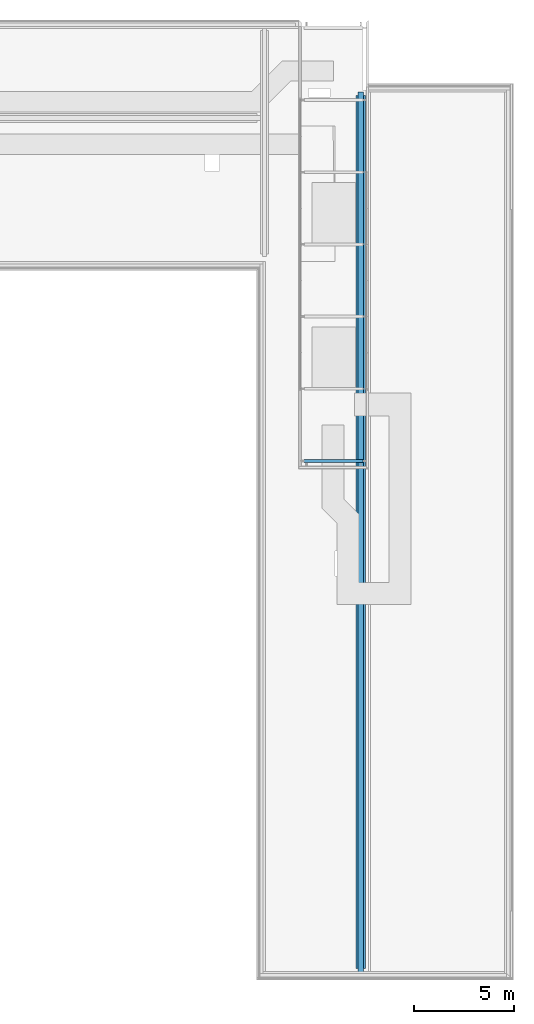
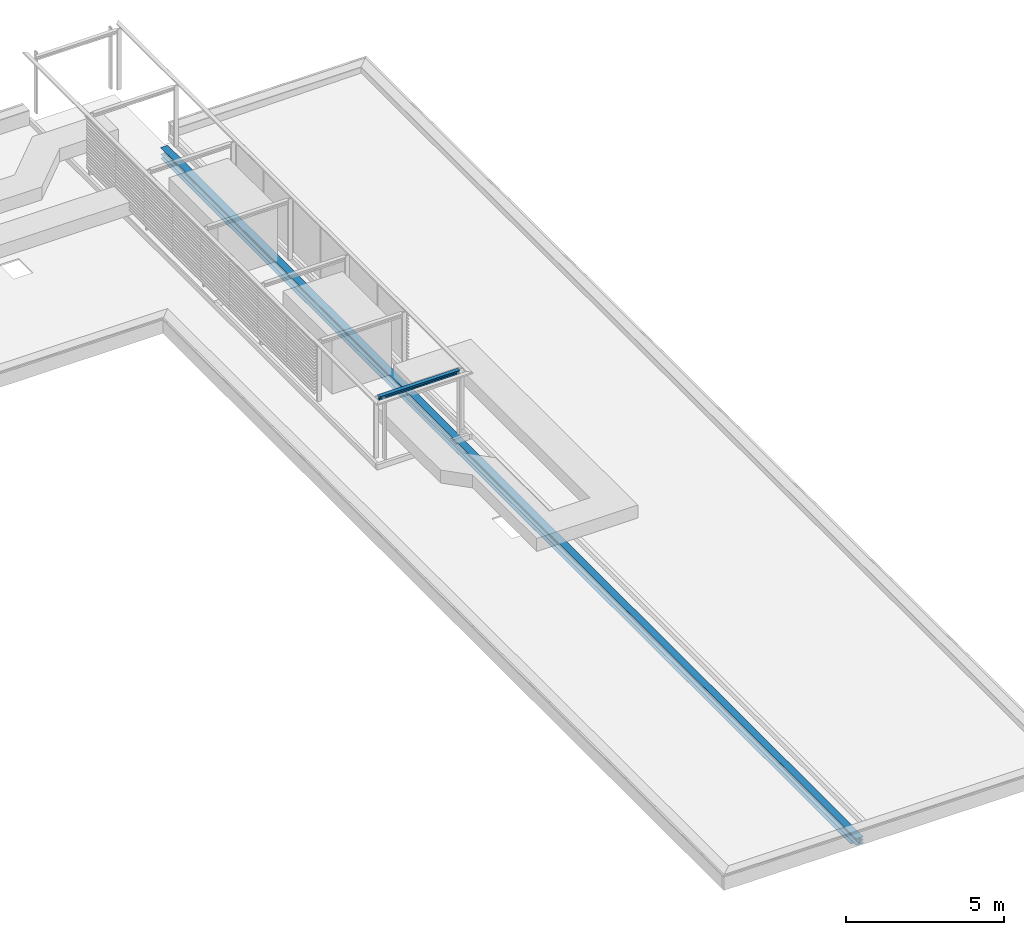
# One storey, part 4 of 32: 2 beams.
"""IFC2X3 building model written with IfcOpenShell, lengths in millimetres."""

from ifc_helpers import new_model, entity, si_unit, converted_unit, derived_unit, direction, frame, frame_2d, origin, origin_2d_with_axis, place, context, subcontext, project, spatial, polyline, circle_curve, parameter, trimmed, segment, composite_curve, rectangle, i_section, outline, extrude, source, transform, mapped, material, material_list, type_object, type_shapes, element, save


model = new_model("IFC2X3")

# Units and contexts
model_context = context("Model", 3, precision=0.01, world=origin(), true_north=direction((6.123031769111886e-17, 1.0)))
body_context = subcontext(model_context, "Body", "Model", "MODEL_VIEW")
ifc_project = project(units=[si_unit("LENGTHUNIT", "METRE", prefix="MILLI"), si_unit("AREAUNIT", "SQUARE_METRE"), si_unit("VOLUMEUNIT", "CUBIC_METRE"), converted_unit("PLANEANGLEUNIT", "DEGREE", entity("IfcRatioMeasure", 0.017453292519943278), si_unit("PLANEANGLEUNIT", "RADIAN"), dimensions=[0, 0, 0, 0, 0, 0, 0]), si_unit("MASSUNIT", "GRAM", prefix="KILO"), derived_unit("MASSDENSITYUNIT", [(si_unit("MASSUNIT", "GRAM", prefix="KILO"), 1), (si_unit("LENGTHUNIT", "METRE"), -3)]), derived_unit("IONCONCENTRATIONUNIT", [(si_unit("MASSUNIT", "GRAM", prefix="KILO"), 1), (si_unit("LENGTHUNIT", "METRE"), -3)]), derived_unit("MOMENTOFINERTIAUNIT", [(si_unit("LENGTHUNIT", "METRE"), 4)]), si_unit("TIMEUNIT", "SECOND"), si_unit("FREQUENCYUNIT", "HERTZ"), si_unit("THERMODYNAMICTEMPERATUREUNIT", "DEGREE_CELSIUS"), derived_unit("THERMALTRANSMITTANCEUNIT", [(si_unit("MASSUNIT", "GRAM", prefix="KILO"), 1), (si_unit("THERMODYNAMICTEMPERATUREUNIT", "KELVIN"), -1), (si_unit("TIMEUNIT", "SECOND"), -3)]), derived_unit("THERMALCONDUCTANCEUNIT", [(si_unit("MASSUNIT", "GRAM", prefix="KILO"), 1), (si_unit("THERMODYNAMICTEMPERATUREUNIT", "KELVIN"), -1), (si_unit("TIMEUNIT", "SECOND"), -3), (si_unit("LENGTHUNIT", "METRE"), 1)]), derived_unit("VOLUMETRICFLOWRATEUNIT", [(si_unit("LENGTHUNIT", "METRE"), 3), (si_unit("TIMEUNIT", "SECOND"), -1)]), derived_unit("MASSFLOWRATEUNIT", [(si_unit("MASSUNIT", "GRAM", prefix="KILO"), 1), (si_unit("TIMEUNIT", "SECOND"), -1)]), derived_unit("ROTATIONALFREQUENCYUNIT", [(si_unit("TIMEUNIT", "SECOND"), -1)]), si_unit("ELECTRICCURRENTUNIT", "AMPERE"), si_unit("ELECTRICVOLTAGEUNIT", "VOLT"), si_unit("POWERUNIT", "WATT"), si_unit("FORCEUNIT", "NEWTON", prefix="KILO"), si_unit("ILLUMINANCEUNIT", "LUX"), si_unit("LUMINOUSFLUXUNIT", "LUMEN"), si_unit("LUMINOUSINTENSITYUNIT", "CANDELA"), derived_unit("USERDEFINED", [(si_unit("MASSUNIT", "GRAM", prefix="KILO"), -1), (si_unit("LENGTHUNIT", "METRE"), -2), (si_unit("TIMEUNIT", "SECOND"), 3), (si_unit("LUMINOUSFLUXUNIT", "LUMEN"), 1)]), derived_unit("USERDEFINED", [(si_unit("MASSUNIT", "GRAM", prefix="KILO"), 1), (si_unit("TIMEUNIT", "SECOND"), -3), (si_unit("LENGTHUNIT", "METRE"), 3), (si_unit("ELECTRICCURRENTUNIT", "AMPERE"), -2)]), derived_unit("SOUNDPOWERUNIT", [(si_unit("MASSUNIT", "GRAM", prefix="KILO"), 1), (si_unit("TIMEUNIT", "SECOND"), -3), (si_unit("LENGTHUNIT", "METRE"), 2)]), derived_unit("SOUNDPRESSUREUNIT", [(si_unit("MASSUNIT", "GRAM", prefix="KILO"), 1), (si_unit("LENGTHUNIT", "METRE"), -1), (si_unit("TIMEUNIT", "SECOND"), -2)]), derived_unit("LINEARVELOCITYUNIT", [(si_unit("LENGTHUNIT", "METRE"), 1), (si_unit("TIMEUNIT", "SECOND"), -1)]), si_unit("PRESSUREUNIT", "PASCAL"), derived_unit("USERDEFINED", [(si_unit("MASSUNIT", "GRAM", prefix="KILO"), 1), (si_unit("LENGTHUNIT", "METRE"), -2), (si_unit("TIMEUNIT", "SECOND"), -2)]), derived_unit("LINEARFORCEUNIT", [(si_unit("MASSUNIT", "GRAM", prefix="KILO"), 1), (si_unit("TIMEUNIT", "SECOND"), -2)]), derived_unit("PLANARFORCEUNIT", [(si_unit("MASSUNIT", "GRAM", prefix="KILO"), 1), (si_unit("LENGTHUNIT", "METRE"), -1), (si_unit("TIMEUNIT", "SECOND"), -2)]), derived_unit("SPECIFICHEATCAPACITYUNIT", [(si_unit("THERMODYNAMICTEMPERATUREUNIT", "KELVIN"), -1), (si_unit("LENGTHUNIT", "METRE"), 2), (si_unit("TIMEUNIT", "SECOND"), -2)]), derived_unit("HEATINGVALUEUNIT", [(si_unit("LENGTHUNIT", "METRE"), 2), (si_unit("TIMEUNIT", "SECOND"), -2)]), derived_unit("VAPORPERMEABILITYUNIT", [(si_unit("LENGTHUNIT", "METRE"), -1), (si_unit("TIMEUNIT", "SECOND"), 1)]), derived_unit("DYNAMICVISCOSITYUNIT", [(si_unit("MASSUNIT", "GRAM", prefix="KILO"), 1), (si_unit("TIMEUNIT", "SECOND"), -1), (si_unit("LENGTHUNIT", "METRE"), -1)]), derived_unit("THERMALEXPANSIONCOEFFICIENTUNIT", [(si_unit("THERMODYNAMICTEMPERATUREUNIT", "KELVIN"), -1)]), derived_unit("MODULUSOFELASTICITYUNIT", [(si_unit("MASSUNIT", "GRAM", prefix="KILO"), 1), (si_unit("LENGTHUNIT", "METRE"), -1), (si_unit("TIMEUNIT", "SECOND"), -2)]), derived_unit("ISOTHERMALMOISTURECAPACITYUNIT", [(si_unit("LENGTHUNIT", "METRE"), 3), (si_unit("MASSUNIT", "GRAM", prefix="KILO"), -1)]), derived_unit("MOISTUREDIFFUSIVITYUNIT", [(si_unit("TIMEUNIT", "SECOND"), -1), (si_unit("LENGTHUNIT", "METRE"), 2)])], contexts=[model_context])

# Site, building, storey
site_placement = place(None, frame((0.0, 300.0, 0.0)))
site = spatial("IfcSite", under=ifc_project, at=site_placement, Name="<Kadastrale nummers>", CompositionType="ELEMENT")
building_placement = place(site_placement, origin())
building = spatial("IfcBuilding", under=site, at=building_placement, CompositionType="ELEMENT")
storey_placement = place(building_placement, frame((0.0, 0.0, 7150.000035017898)))
storey = spatial("IfcBuildingStorey", under=building, at=storey_placement, Name="02 tweede verdieping", CompositionType="ELEMENT", Elevation=7150.000035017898)

# Beams
ifc_material_1 = material(Name="ISR_Staal")
ifc_material_2 = material(Name="<Unnamed>")
ifc_material_list = material_list([ifc_material_2, ifc_material_1])
beam_type_1 = type_object("IfcBeamType", Name="NLRS_28_SF_LIB_balk SFB_gen_ASN:balk HEB260 460x20", PredefinedType="BEAM", material=ifc_material_list)
shared_shape = source(origin(), body_context, "Body", "SweptSolid", [
    extrude(rectangle(XDim=20.000000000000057, YDim=459.99999999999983, at=origin_2d_with_axis()), frame((-21781.25000000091, 0.0, -84.0), z_axis=(1.0, 0.0, 0.0), x_axis=(0.0, 0.0, -1.0)), (0.0, 0.0, 1.0), 43562.50000000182),
    extrude(outline(composite_curve([segment(polyline([(112.49999999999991, -130.0), (130.0, -130.0)]), True, "CONTINUOUS"), segment(polyline([(130.0, -130.0), (130.0, 130.0)]), True, "CONTINUOUS"), segment(polyline([(130.0, 130.0), (112.49999999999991, 130.0)]), True, "CONTINUOUS"), segment(polyline([(112.49999999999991, 130.0), (112.49999999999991, 29.0)]), True, "CONTINUOUS"), segment(trimmed(circle_curve(frame_2d((88.49999999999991, 29.0), x_axis=(1.0, 0.0)), 23.99999999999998), [parameter(269.99999999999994)], [parameter(0.0)], True, "PARAMETER"), False, "CONTINUOUS"), segment(polyline([(88.49999999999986, 5.0), (-88.5, 5.0)]), True, "CONTINUOUS"), segment(trimmed(circle_curve(frame_2d((-88.49999999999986, 29.0), x_axis=(0.0, -1.0)), 24.000000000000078), [parameter(269.9999999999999)], [parameter(0.0)], True, "PARAMETER"), False, "CONTINUOUS"), segment(polyline([(-112.49999999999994, 29.0), (-112.49999999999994, 130.0)]), True, "CONTINUOUS"), segment(polyline([(-112.49999999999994, 130.0), (-130.0, 130.0)]), True, "CONTINUOUS"), segment(polyline([(-130.0, 130.0), (-130.0, -130.0)]), True, "CONTINUOUS"), segment(polyline([(-130.0, -130.0), (-112.49999999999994, -130.0)]), True, "CONTINUOUS"), segment(polyline([(-112.49999999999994, -130.0), (-112.49999999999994, -29.0)]), True, "CONTINUOUS"), segment(trimmed(circle_curve(frame_2d((-88.49999999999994, -29.0), x_axis=(-1.0, 0.0)), 23.99999999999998), [parameter(269.99999999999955)], [parameter(0.0)], True, "PARAMETER"), False, "CONTINUOUS"), segment(polyline([(-88.49999999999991, -5.0), (88.49999999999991, -5.0)]), True, "CONTINUOUS"), segment(trimmed(circle_curve(frame_2d((88.49999999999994, -29.0), x_axis=(0.0, 1.0)), 23.999999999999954), [parameter(269.9999999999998)], [parameter(0.0)], True, "PARAMETER"), False, "CONTINUOUS"), segment(polyline([(112.49999999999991, -29.0), (112.49999999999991, -130.0)]), True, "CONTINUOUS")], self_intersect=False)), frame((-21956.250000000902, 0.0, 56.0), z_axis=(1.0, 0.0, 0.0), x_axis=(0.0, 0.0, -1.0)), (0.0, 0.0, 1.0), 43912.500000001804),
])
type_shapes(beam_type_1, [shared_shape])
beam_1_placement = place(storey_placement, frame((41400.0, 24656.25000000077, -186.0), z_axis=(0.0, 0.0, 1.0), x_axis=(0.0, 1.0, 0.0)))
element("IfcBeam", 1, at=beam_1_placement, inside=storey, type_object=beam_type_1, material=ifc_material_1, Name="NLRS_28_SF_LIB_balk SFB_gen_ASN:balk HEB260 460x20", ObjectType="NLRS_28_SF_LIB_balk SFB_gen_ASN:balk HEB260 460x20", context=body_context, shape_type="MappedRepresentation", body=[
    mapped(shared_shape, transform((0.0, 0.0, 0.0), scale=1.0)),
])
ifc_material_3 = material(Name="h2_staal S235")
beam_type_2 = type_object("IfcBeamType", Name="NLRS_28_SF_LIB_balk hea -SH_gen_ISR:balk gen hea140", PredefinedType="BEAM")
beam_2_placement = place(storey_placement, frame((39706.99978599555, 28200.0, 2409.9999649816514)))
element("IfcBeam", 2, at=beam_2_placement, inside=storey, type_object=beam_type_2, material=ifc_material_3, Name="NLRS_28_SF_LIB_balk hea -SH_gen_ISR:balk gen hea140", ObjectType="NLRS_28_SF_LIB_balk hea -SH_gen_ISR:balk gen hea140", context=body_context, shape_type="SweptSolid", body=[
    extrude(i_section(OverallWidth=140.0000000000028, OverallDepth=133.00000000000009, WebThickness=5.4999999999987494, FlangeThickness=8.500000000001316, FilletRadius=12.000000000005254, at=frame_2d((-1.0800249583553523e-12, -6.494360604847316e-12), x_axis=(0.0, 1.0))), frame((-1131.9997859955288, 0.0, 66.49999999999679), z_axis=(1.0, 0.0, 0.0), x_axis=(0.0, 0.0, -1.0)), (0.0, 0.0, 1.0), 2939.9999999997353),
])

save(model, "model.ifc")
